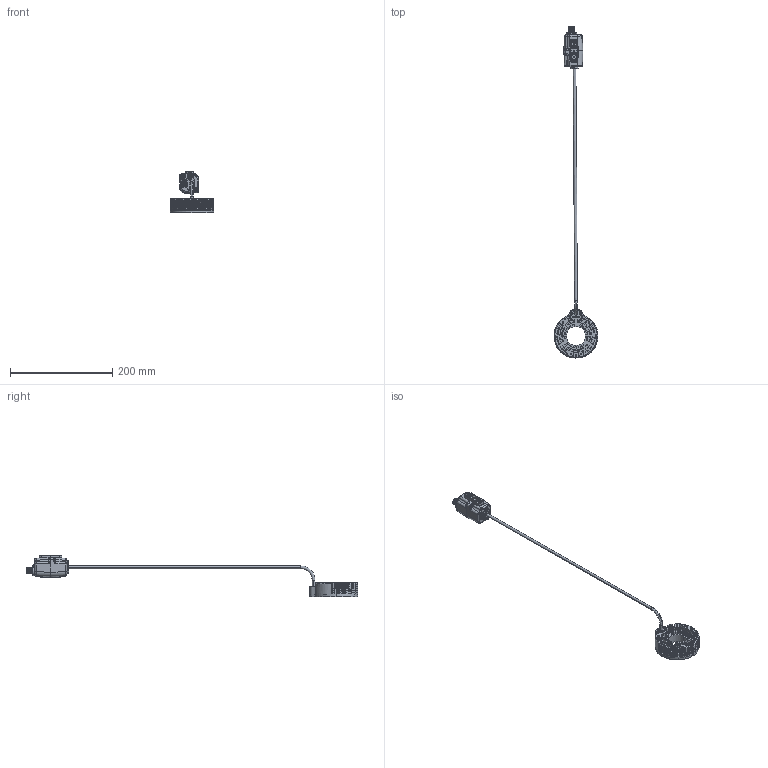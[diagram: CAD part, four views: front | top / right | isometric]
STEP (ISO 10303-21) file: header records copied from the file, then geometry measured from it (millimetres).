
FILE_DESCRIPTION (( 'STEP AP214' ), '1' );
FILE_NAME ('M-TRING-xxx-NL-DO.STEP', '2024-09-11T14:05:11', ( '' ), ( '' ), 'SwSTEP 2.0', 'SolidWorks 2021', '' );
FILE_SCHEMA (( 'AUTOMOTIVE_DESIGN' ));
Length unit declared in the file: millimetre
Products named in the file (4): PSU - Customer CAD; M-TRING-xxx-NL-DO; Cable
Assembly tree (3 placements, depth 2):
  M-TRING-xxx-NL-DO
    Cable
    PSU - Customer CAD
    M-TRING-xxx-NL-DO
Bounding box: 86 x 649.82 x 81.38 mm (x, y, z)
Volume: 190356.7 mm3; surface area: 60765.3 mm2
Topology: 3 solids, 6 shells, 1645 faces, 4102 edges, 2550 vertices
Faces by surface type: cylinder 596, plane 583, bspline 370, cone 58, torus 38
Entity records: 60334 total; most frequent: CARTESIAN_POINT 23214, ORIENTED_EDGE 8166, DIRECTION 7268, EDGE_CURVE 4083, AXIS2_PLACEMENT_3D 2691, VERTEX_POINT 2550, LINE 1886, VECTOR 1886
